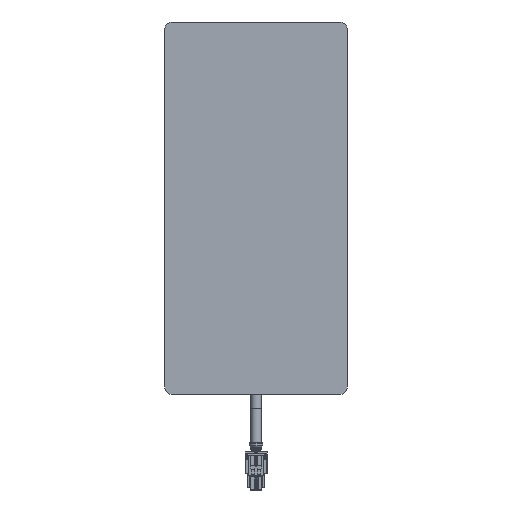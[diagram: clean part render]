
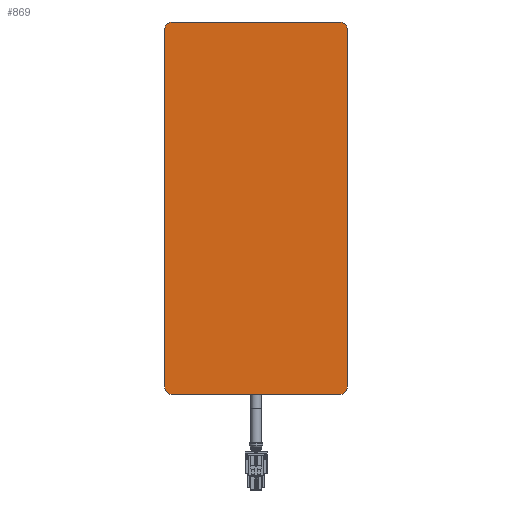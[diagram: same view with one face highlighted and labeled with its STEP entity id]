
A CAD part, left-side view. The second image highlights one B-rep face of the part: STEP entity #869.
In plain terms, the highlighted planar face has unit normal (-1, 0, 0) as drawn and (0, 0, -1) by its records, which use the part's own axes.
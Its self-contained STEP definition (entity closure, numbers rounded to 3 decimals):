
#869 = ADVANCED_FACE ( 'NONE', ( #33170 ), #7224, .F. ) ;
#884 = DIRECTION ( 'NONE',  ( 1., 0., 0. ) ) ;
#1716 = LINE ( 'NONE', #22536, #15965 ) ;
#2899 = EDGE_LOOP ( 'NONE', ( #6852, #31047, #28433, #11578, #10707, #12897, #15649, #21469 ) ) ;
#3331 = CARTESIAN_POINT ( 'NONE',  ( 117.5, 55., 0. ) ) ;
#3390 = VERTEX_POINT ( 'NONE', #29538 ) ;
#5171 = EDGE_CURVE ( 'NONE', #3390, #8189, #15643, .T. ) ;
#6154 = VERTEX_POINT ( 'NONE', #30570 ) ;
#6192 = VECTOR ( 'NONE', #27466, 1000. ) ;
#6202 = DIRECTION ( 'NONE',  ( 1., 0., 0. ) ) ;
#6484 = VERTEX_POINT ( 'NONE', #17551 ) ;
#6722 = CARTESIAN_POINT ( 'NONE',  ( 0., 0., 0. ) ) ;
#6852 = ORIENTED_EDGE ( 'NONE', *, *, #33766, .F. ) ;
#7224 = PLANE ( 'NONE',  #23337 ) ;
#7230 = DIRECTION ( 'NONE',  ( 1., 0., 0. ) ) ;
#7382 = DIRECTION ( 'NONE',  ( 0., -1., 0. ) ) ;
#7478 = EDGE_CURVE ( 'NONE', #24701, #9322, #9990, .T. ) ;
#7874 = EDGE_CURVE ( 'NONE', #6154, #9322, #19441, .T. ) ;
#8065 = CARTESIAN_POINT ( 'NONE',  ( -122.5, 55., 0. ) ) ;
#8140 = EDGE_CURVE ( 'NONE', #6484, #28859, #26401, .T. ) ;
#8187 = DIRECTION ( 'NONE',  ( 0., 0., -1. ) ) ;
#8189 = VERTEX_POINT ( 'NONE', #18542 ) ;
#8337 = AXIS2_PLACEMENT_3D ( 'NONE', #23268, #17976, #7230 ) ;
#8577 = LINE ( 'NONE', #26853, #18704 ) ;
#9031 = DIRECTION ( 'NONE',  ( 0., 1., 0. ) ) ;
#9322 = VERTEX_POINT ( 'NONE', #14215 ) ;
#9928 = LINE ( 'NONE', #28044, #14837 ) ;
#9990 = CIRCLE ( 'NONE', #8337, 5. ) ;
#10352 = EDGE_CURVE ( 'NONE', #6484, #8189, #8577, .T. ) ;
#10707 = ORIENTED_EDGE ( 'NONE', *, *, #13917, .F. ) ;
#11186 = CIRCLE ( 'NONE', #15591, 5. ) ;
#11578 = ORIENTED_EDGE ( 'NONE', *, *, #16898, .T. ) ;
#12783 = CARTESIAN_POINT ( 'NONE',  ( 122.5, 55., 0. ) ) ;
#12897 = ORIENTED_EDGE ( 'NONE', *, *, #5171, .T. ) ;
#13917 = EDGE_CURVE ( 'NONE', #3390, #28945, #1716, .T. ) ;
#14215 = CARTESIAN_POINT ( 'NONE',  ( -117.5, 60., 0. ) ) ;
#14420 = DIRECTION ( 'NONE',  ( 0., 0., 1. ) ) ;
#14837 = VECTOR ( 'NONE', #7382, 1000. ) ;
#14965 = AXIS2_PLACEMENT_3D ( 'NONE', #18201, #23662, #28314 ) ;
#15591 = AXIS2_PLACEMENT_3D ( 'NONE', #3331, #32001, #19039 ) ;
#15643 = CIRCLE ( 'NONE', #20001, 5. ) ;
#15649 = ORIENTED_EDGE ( 'NONE', *, *, #10352, .F. ) ;
#15965 = VECTOR ( 'NONE', #9031, 1000. ) ;
#16898 = EDGE_CURVE ( 'NONE', #6154, #28945, #11186, .T. ) ;
#17551 = CARTESIAN_POINT ( 'NONE',  ( -117.5, -60., 0. ) ) ;
#17976 = DIRECTION ( 'NONE',  ( 0., 0., -1. ) ) ;
#18201 = CARTESIAN_POINT ( 'NONE',  ( -117.5, -55., 0. ) ) ;
#18542 = CARTESIAN_POINT ( 'NONE',  ( 117.5, -60., 0. ) ) ;
#18704 = VECTOR ( 'NONE', #884, 1000. ) ;
#19039 = DIRECTION ( 'NONE',  ( 1., 0., 0. ) ) ;
#19441 = LINE ( 'NONE', #32221, #6192 ) ;
#20001 = AXIS2_PLACEMENT_3D ( 'NONE', #29367, #8187, #26795 ) ;
#21469 = ORIENTED_EDGE ( 'NONE', *, *, #8140, .T. ) ;
#22536 = CARTESIAN_POINT ( 'NONE',  ( 122.5, 60., 0. ) ) ;
#23268 = CARTESIAN_POINT ( 'NONE',  ( -117.5, 55., 0. ) ) ;
#23337 = AXIS2_PLACEMENT_3D ( 'NONE', #6722, #14420, #6202 ) ;
#23662 = DIRECTION ( 'NONE',  ( 0., 0., -1. ) ) ;
#24701 = VERTEX_POINT ( 'NONE', #8065 ) ;
#24945 = CARTESIAN_POINT ( 'NONE',  ( -122.5, -55., 0. ) ) ;
#26401 = CIRCLE ( 'NONE', #14965, 5. ) ;
#26795 = DIRECTION ( 'NONE',  ( 1., 0., 0. ) ) ;
#26853 = CARTESIAN_POINT ( 'NONE',  ( -122.5, -60., 0. ) ) ;
#27466 = DIRECTION ( 'NONE',  ( -1., 0., 0. ) ) ;
#28044 = CARTESIAN_POINT ( 'NONE',  ( -122.5, 60., 0. ) ) ;
#28314 = DIRECTION ( 'NONE',  ( 1., 0., 0. ) ) ;
#28433 = ORIENTED_EDGE ( 'NONE', *, *, #7874, .F. ) ;
#28859 = VERTEX_POINT ( 'NONE', #24945 ) ;
#28945 = VERTEX_POINT ( 'NONE', #12783 ) ;
#29367 = CARTESIAN_POINT ( 'NONE',  ( 117.5, -55., 0. ) ) ;
#29538 = CARTESIAN_POINT ( 'NONE',  ( 122.5, -55., 0. ) ) ;
#30570 = CARTESIAN_POINT ( 'NONE',  ( 117.5, 60., 0. ) ) ;
#31047 = ORIENTED_EDGE ( 'NONE', *, *, #7478, .T. ) ;
#32001 = DIRECTION ( 'NONE',  ( 0., 0., -1. ) ) ;
#32221 = CARTESIAN_POINT ( 'NONE',  ( -122.5, 60., 0. ) ) ;
#33170 = FACE_OUTER_BOUND ( 'NONE', #2899, .T. ) ;
#33766 = EDGE_CURVE ( 'NONE', #24701, #28859, #9928, .T. ) ;
